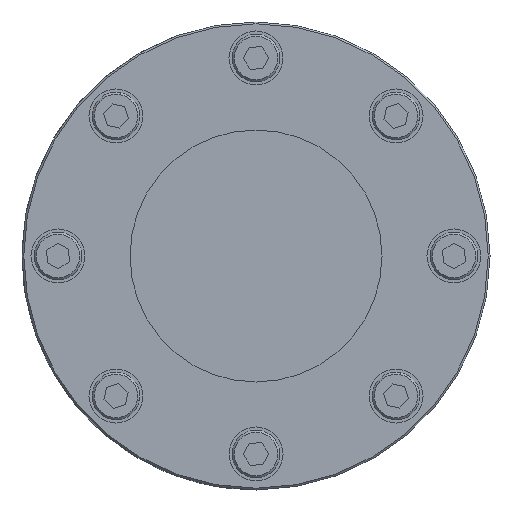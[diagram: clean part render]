
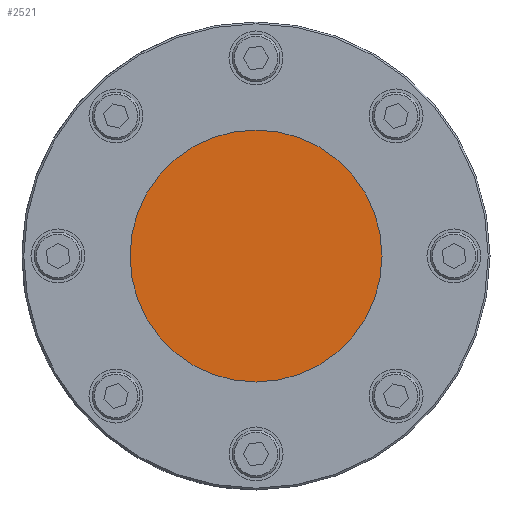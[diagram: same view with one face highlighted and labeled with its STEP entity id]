
A CAD part, front view. The second image highlights one B-rep face of the part: STEP entity #2521.
In plain terms, the highlighted planar face has unit normal (0, -1, 0).
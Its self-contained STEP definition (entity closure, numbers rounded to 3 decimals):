
#199 = CARTESIAN_POINT ( 'NONE',  ( 0., 0., 42.75 ) ) ;
#256 = EDGE_CURVE ( 'NONE', #3529, #4006, #2094, .T. ) ;
#383 = EDGE_CURVE ( 'NONE', #4006, #3529, #1061, .T. ) ;
#394 = AXIS2_PLACEMENT_3D ( 'NONE', #3702, #935, #3023 ) ;
#706 = CARTESIAN_POINT ( 'NONE',  ( 0., 0., -42.75 ) ) ;
#753 = FACE_OUTER_BOUND ( 'NONE', #1374, .T. ) ;
#819 = DIRECTION ( 'NONE',  ( 0., -1., 0. ) ) ;
#833 = AXIS2_PLACEMENT_3D ( 'NONE', #3962, #819, #1494 ) ;
#935 = DIRECTION ( 'NONE',  ( 0., 1., 0. ) ) ;
#1061 = CIRCLE ( 'NONE', #4329, 42.75 ) ;
#1374 = EDGE_LOOP ( 'NONE', ( #3008, #2998 ) ) ;
#1494 = DIRECTION ( 'NONE',  ( 0., 0., 1. ) ) ;
#1512 = CARTESIAN_POINT ( 'NONE',  ( 0., 0., 0. ) ) ;
#2094 = CIRCLE ( 'NONE', #833, 42.75 ) ;
#2521 = ADVANCED_FACE ( 'NONE', ( #753 ), #4011, .F. ) ;
#2998 = ORIENTED_EDGE ( 'NONE', *, *, #256, .T. ) ;
#3008 = ORIENTED_EDGE ( 'NONE', *, *, #383, .T. ) ;
#3023 = DIRECTION ( 'NONE',  ( 0., 0., 1. ) ) ;
#3529 = VERTEX_POINT ( 'NONE', #706 ) ;
#3702 = CARTESIAN_POINT ( 'NONE',  ( 0., 0., 0. ) ) ;
#3962 = CARTESIAN_POINT ( 'NONE',  ( 0., 0., 0. ) ) ;
#4006 = VERTEX_POINT ( 'NONE', #199 ) ;
#4011 = PLANE ( 'NONE',  #394 ) ;
#4329 = AXIS2_PLACEMENT_3D ( 'NONE', #1512, #4373, #4339 ) ;
#4339 = DIRECTION ( 'NONE',  ( 0., 0., 1. ) ) ;
#4373 = DIRECTION ( 'NONE',  ( 0., -1., 0. ) ) ;
